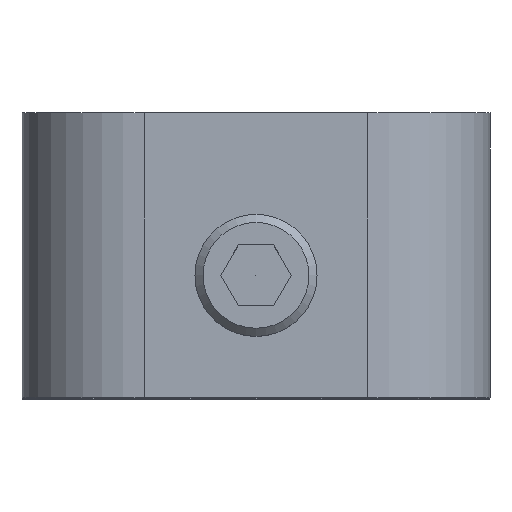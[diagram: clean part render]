
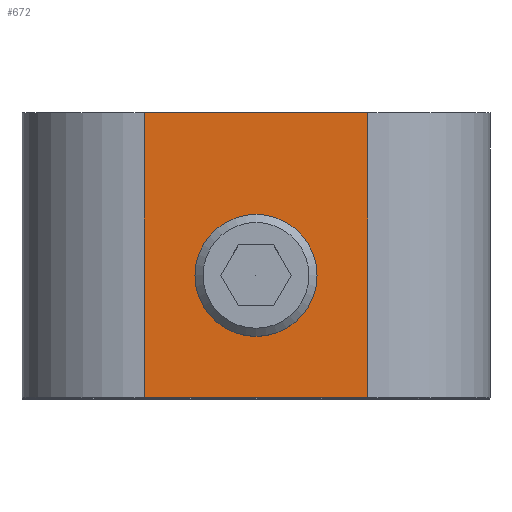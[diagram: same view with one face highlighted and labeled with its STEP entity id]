
A CAD part, top view. The second image highlights one B-rep face of the part: STEP entity #672.
In plain terms, the highlighted planar face has unit normal (0, 0, 1).
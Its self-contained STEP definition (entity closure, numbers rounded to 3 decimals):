
#49=LINE('',#1066,#111);
#50=LINE('',#1069,#112);
#51=LINE('',#1071,#113);
#52=LINE('',#1072,#114);
#111=VECTOR('',#872,7.);
#112=VECTOR('',#875,5.5);
#113=VECTOR('',#876,7.);
#114=VECTOR('',#877,5.5);
#157=PLANE('',#734);
#179=FACE_BOUND('',#251,.T.);
#180=FACE_BOUND('',#252,.T.);
#251=EDGE_LOOP('',(#537));
#252=EDGE_LOOP('',(#538,#539,#540,#541));
#277=CIRCLE('',#700,1.5);
#304=VERTEX_POINT('',#969);
#334=VERTEX_POINT('',#1059);
#337=VERTEX_POINT('',#1064);
#338=VERTEX_POINT('',#1068);
#339=VERTEX_POINT('',#1070);
#369=EDGE_CURVE('',#304,#304,#277,.T.);
#413=EDGE_CURVE('',#337,#334,#49,.T.);
#414=EDGE_CURVE('',#337,#338,#50,.T.);
#415=EDGE_CURVE('',#339,#338,#51,.T.);
#416=EDGE_CURVE('',#339,#334,#52,.T.);
#537=ORIENTED_EDGE('',*,*,#369,.T.);
#538=ORIENTED_EDGE('',*,*,#413,.F.);
#539=ORIENTED_EDGE('',*,*,#414,.T.);
#540=ORIENTED_EDGE('',*,*,#415,.F.);
#541=ORIENTED_EDGE('',*,*,#416,.T.);
#672=ADVANCED_FACE('',(#179,#180),#157,.T.);
#700=AXIS2_PLACEMENT_3D('',#970,#775,#776);
#734=AXIS2_PLACEMENT_3D('',#1067,#873,#874);
#775=DIRECTION('center_axis',(0.,0.,-1.));
#776=DIRECTION('ref_axis',(0.866,-0.5,0.));
#872=DIRECTION('',(0.,1.,0.));
#873=DIRECTION('center_axis',(0.,0.,1.));
#874=DIRECTION('ref_axis',(1.,0.,0.));
#875=DIRECTION('',(1.,0.,0.));
#876=DIRECTION('',(0.,-1.,0.));
#877=DIRECTION('',(-1.,0.,0.));
#969=CARTESIAN_POINT('',(-1.299,7.75,10.));
#970=CARTESIAN_POINT('Origin',(0.,7.,10.));
#1059=CARTESIAN_POINT('',(-2.75,11.,10.));
#1064=CARTESIAN_POINT('',(-2.75,4.,10.));
#1066=CARTESIAN_POINT('',(-2.75,0.,10.));
#1067=CARTESIAN_POINT('Origin',(5.75,0.,10.));
#1068=CARTESIAN_POINT('',(2.75,4.,10.));
#1069=CARTESIAN_POINT('',(2.875,4.,10.));
#1070=CARTESIAN_POINT('',(2.75,11.,10.));
#1071=CARTESIAN_POINT('',(2.75,0.,10.));
#1072=CARTESIAN_POINT('',(5.75,11.,10.));
